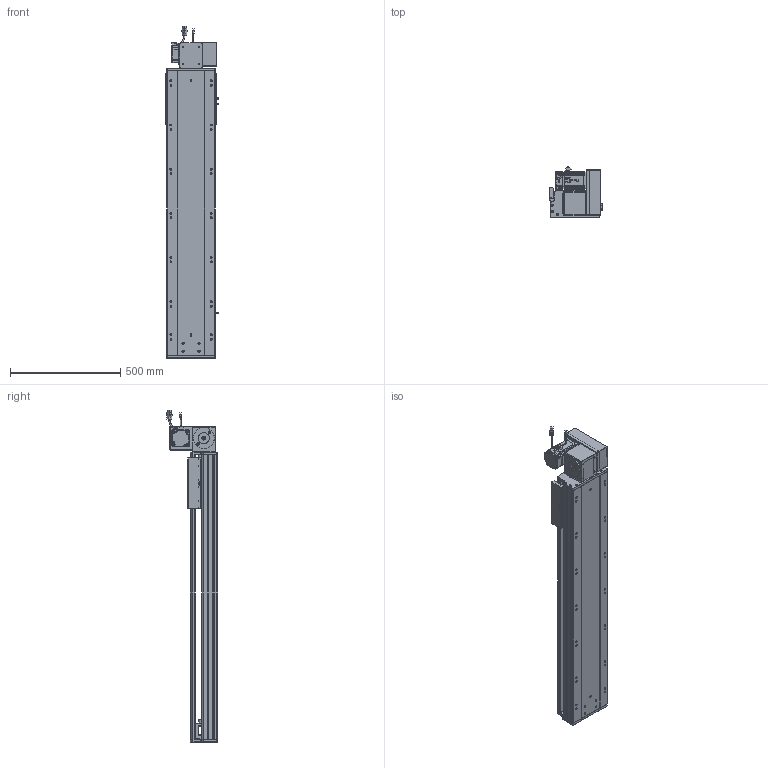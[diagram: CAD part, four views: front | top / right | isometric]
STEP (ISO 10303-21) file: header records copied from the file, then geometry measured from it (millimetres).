
FILE_DESCRIPTION (( 'STEP AP203' ), '1' );
FILE_NAME ('RY220-T-300-UR.SLDASM_950.step', '2022-07-25T08:43:16', ( '' ), ( '' ), 'SwSTEP 2.0', 'SolidWorks 2016', '' );
FILE_SCHEMA (( 'CONFIG_CONTROL_DESIGN' ));
Length unit declared in the file: millimetre
Products named in the file (14): 怢湛750W_ECMA-CX0807ES; RY220-T菁釱-300_950; RY220翋肮祭謫裔啣; RY220翋肮祭謫釱; 覜茼ん672; RY220圉猾敕々湍臏賑輸; RY220-T-蛌殏萇儂假蚾啣(750W); RY220-T-300-奻裔啣_950; 滅袉蝶18-15; RY220-同步轮副支撑座6304×2; RY220-T-300-UR.SLDASM_950; RY220-T-湍謫欶(鍼踢); RY220-俋离672覜茼んえ; 110A-T-肮祭謫釱傷裔
Assembly tree (18 placements, depth 2):
  RY220-T-300-UR.SLDASM_950
    RY220-T菁釱-300_950
    RY220翋肮祭謫釱
    覜茼ん672  x3
    RY220圉猾敕々湍臏賑輸
    RY220-T-300-奻裔啣_950
    RY220-俋离672覜茼んえ
    滅袉蝶18-15  x3
    RY220翋肮祭謫裔啣  x2
    110A-T-肮祭謫釱傷裔
    怢湛750W_ECMA-CX0807ES
    RY220-T-湍謫欶(鍼踢)
    RY220-T-蛌殏萇儂假蚾啣(750W)
    RY220-同步轮副支撑座6304×2
Bounding box: 238.7 x 231.74 x 1503.27 mm (x, y, z)
Volume: 11936843.8 mm3; surface area: 3474841.1 mm2
Topology: 19 solids, 19 shells, 2616 faces, 7215 edges, 4580 vertices
Faces by surface type: cylinder 1220, plane 1069, cone 245, bspline 56, sphere 16, torus 10
Entity records: 86979 total; most frequent: CARTESIAN_POINT 24819, ORIENTED_EDGE 12922, DIRECTION 12196, EDGE_CURVE 6461, AXIS2_PLACEMENT_3D 4306, VERTEX_POINT 4204, LINE 3584, VECTOR 3584
